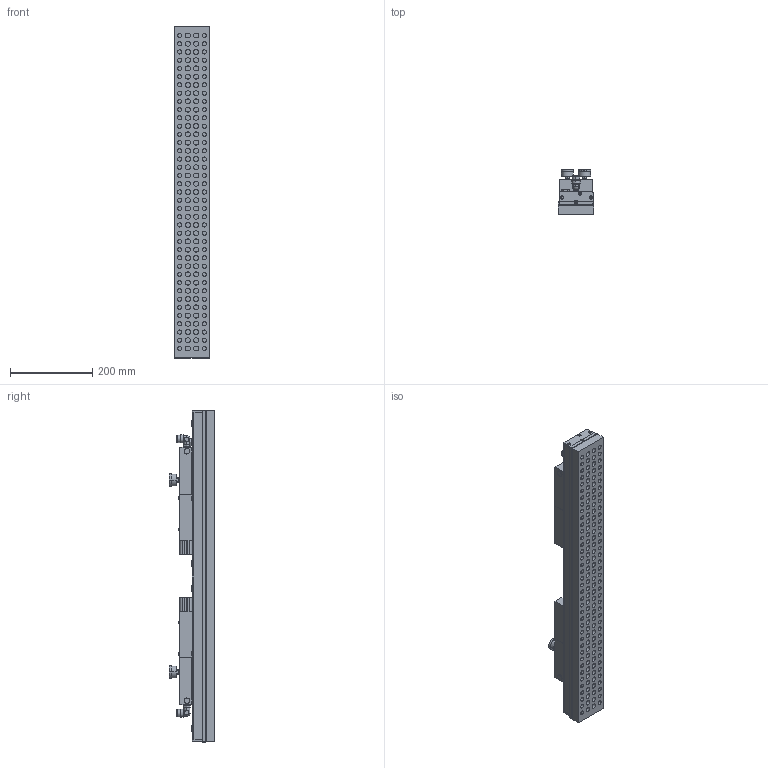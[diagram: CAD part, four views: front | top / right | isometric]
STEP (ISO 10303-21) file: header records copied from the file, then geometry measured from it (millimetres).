
FILE_DESCRIPTION (( 'STEP AP214' ), '1' );
FILE_NAME ('9671 080 010.STEP', '2012-09-12T11:37:29', ( 'cad' ), ( 'Microsoft' ), 'SwSTEP 2.0', 'SolidWorks 2012', '' );
FILE_SCHEMA (( 'AUTOMOTIVE_DESIGN' ));
Length unit declared in the file: millimetre
Products named in the file (1): 9671 080 010
Bounding box: 86 x 109.5 x 806 mm (x, y, z)
Volume: 4465445 mm3; surface area: 464784 mm2
Topology: 1 solids, 1 shells, 1269 faces, 2880 edges, 1850 vertices
Faces by surface type: plane 619, cylinder 514, cone 102, torus 16, sphere 10, bspline 8
Entity records: 48423 total; most frequent: CARTESIAN_POINT 6824, DIRECTION 6534, ORIENTED_EDGE 5752, EDGE_CURVE 2876, AXIS2_PLACEMENT_3D 2512, VERTEX_POINT 1850, EDGE_LOOP 1514, VECTOR 1510
